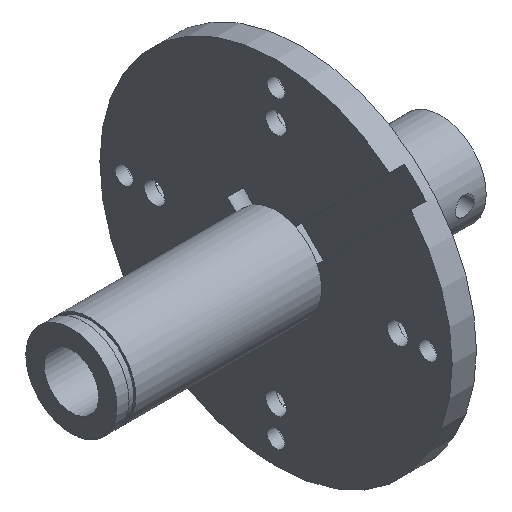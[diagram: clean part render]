
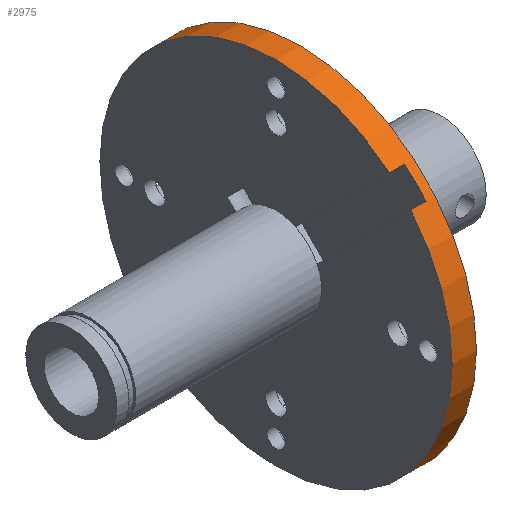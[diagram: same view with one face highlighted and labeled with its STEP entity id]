
A CAD part, isometric view. The second image highlights one B-rep face of the part: STEP entity #2975.
In plain terms, the highlighted cylindrical face has radius 29 mm (diameter 58 mm), a full revolution.
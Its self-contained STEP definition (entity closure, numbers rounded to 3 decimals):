
#1933 = PLANE('',#1934);
#1934 = AXIS2_PLACEMENT_3D('',#1935,#1936,#1937);
#1935 = CARTESIAN_POINT('',(14.4,0.,0.)
  );
#1936 = DIRECTION('',(1.,0.,0.));
#1937 = DIRECTION('',(-0.,0.,1.));
#2160 = PLANE('',#2161);
#2161 = AXIS2_PLACEMENT_3D('',#2162,#2163,#2164);
#2162 = CARTESIAN_POINT('',(14.39,-1.768,5.303));
#2163 = DIRECTION('',(0.,0.707,0.707));
#2164 = DIRECTION('',(0.,-0.707,0.707));
#2219 = PLANE('',#2220);
#2220 = AXIS2_PLACEMENT_3D('',#2221,#2222,#2223);
#2221 = CARTESIAN_POINT('',(14.39,-5.303,1.768));
#2222 = DIRECTION('',(0.,0.707,0.707));
#2223 = DIRECTION('',(0.,-0.707,0.707));
#2372 = VERTEX_POINT('',#2373);
#2373 = CARTESIAN_POINT('',(14.4,-22.198,18.662));
#2392 = EDGE_CURVE('',#2372,#2393,#2395,.T.);
#2393 = VERTEX_POINT('',#2394);
#2394 = CARTESIAN_POINT('',(14.4,29.,0.));
#2395 = SURFACE_CURVE('',#2396,(#2401,#2408),.PCURVE_S1.);
#2396 = CIRCLE('',#2397,29.);
#2397 = AXIS2_PLACEMENT_3D('',#2398,#2399,#2400);
#2398 = CARTESIAN_POINT('',(14.4,0.,0.));
#2399 = DIRECTION('',(1.,0.,0.));
#2400 = DIRECTION('',(0.,1.,0.));
#2401 = PCURVE('',#1933,#2402);
#2402 = DEFINITIONAL_REPRESENTATION('',(#2403),#2407);
#2403 = CIRCLE('',#2404,29.);
#2404 = AXIS2_PLACEMENT_2D('',#2405,#2406);
#2405 = CARTESIAN_POINT('',(0.,0.));
#2406 = DIRECTION('',(0.,-1.));
#2407 = ( GEOMETRIC_REPRESENTATION_CONTEXT(2) 
PARAMETRIC_REPRESENTATION_CONTEXT() REPRESENTATION_CONTEXT('2D SPACE',''
  ) );
#2408 = PCURVE('',#2409,#2414);
#2409 = CYLINDRICAL_SURFACE('',#2410,29.);
#2410 = AXIS2_PLACEMENT_3D('',#2411,#2412,#2413);
#2411 = CARTESIAN_POINT('',(14.4,0.,0.));
#2412 = DIRECTION('',(-1.,-0.,-0.));
#2413 = DIRECTION('',(0.,1.,0.));
#2414 = DEFINITIONAL_REPRESENTATION('',(#2415),#2419);
#2415 = LINE('',#2416,#2417);
#2416 = CARTESIAN_POINT('',(-0.,0.));
#2417 = VECTOR('',#2418,1.);
#2418 = DIRECTION('',(-1.,0.));
#2419 = ( GEOMETRIC_REPRESENTATION_CONTEXT(2) 
PARAMETRIC_REPRESENTATION_CONTEXT() REPRESENTATION_CONTEXT('2D SPACE',''
  ) );
#2421 = EDGE_CURVE('',#2393,#2422,#2424,.T.);
#2422 = VERTEX_POINT('',#2423);
#2423 = CARTESIAN_POINT('',(14.4,-18.662,22.198));
#2424 = SURFACE_CURVE('',#2425,(#2430,#2437),.PCURVE_S1.);
#2425 = CIRCLE('',#2426,29.);
#2426 = AXIS2_PLACEMENT_3D('',#2427,#2428,#2429);
#2427 = CARTESIAN_POINT('',(14.4,0.,0.));
#2428 = DIRECTION('',(1.,0.,0.));
#2429 = DIRECTION('',(0.,1.,0.));
#2430 = PCURVE('',#1933,#2431);
#2431 = DEFINITIONAL_REPRESENTATION('',(#2432),#2436);
#2432 = CIRCLE('',#2433,29.);
#2433 = AXIS2_PLACEMENT_2D('',#2434,#2435);
#2434 = CARTESIAN_POINT('',(0.,0.));
#2435 = DIRECTION('',(0.,-1.));
#2436 = ( GEOMETRIC_REPRESENTATION_CONTEXT(2) 
PARAMETRIC_REPRESENTATION_CONTEXT() REPRESENTATION_CONTEXT('2D SPACE',''
  ) );
#2437 = PCURVE('',#2409,#2438);
#2438 = DEFINITIONAL_REPRESENTATION('',(#2439),#2443);
#2439 = LINE('',#2440,#2441);
#2440 = CARTESIAN_POINT('',(-0.,0.));
#2441 = VECTOR('',#2442,1.);
#2442 = DIRECTION('',(-1.,0.));
#2443 = ( GEOMETRIC_REPRESENTATION_CONTEXT(2) 
PARAMETRIC_REPRESENTATION_CONTEXT() REPRESENTATION_CONTEXT('2D SPACE',''
  ) );
#2724 = VERTEX_POINT('',#2725);
#2725 = CARTESIAN_POINT('',(16.9,-22.198,18.662));
#2739 = PLANE('',#2740);
#2740 = AXIS2_PLACEMENT_3D('',#2741,#2742,#2743);
#2741 = CARTESIAN_POINT('',(16.9,-5.303,1.768));
#2742 = DIRECTION('',(1.,0.,0.));
#2743 = DIRECTION('',(0.,-0.707,0.707));
#2802 = EDGE_CURVE('',#2724,#2372,#2803,.T.);
#2803 = SURFACE_CURVE('',#2804,(#2808,#2814),.PCURVE_S1.);
#2804 = LINE('',#2805,#2806);
#2805 = CARTESIAN_POINT('',(14.4,-22.198,18.662));
#2806 = VECTOR('',#2807,1.);
#2807 = DIRECTION('',(-1.,-0.,-0.));
#2808 = PCURVE('',#2219,#2809);
#2809 = DEFINITIONAL_REPRESENTATION('',(#2810),#2813);
#2810 = B_SPLINE_CURVE_WITH_KNOTS('',1,(#2811,#2812),.UNSPECIFIED.,.F.,
  .F.,(2,2),(-2.751,0.),.PIECEWISE_BEZIER_KNOTS.);
#2811 = CARTESIAN_POINT('',(23.892,2.761));
#2812 = CARTESIAN_POINT('',(23.892,0.01));
#2813 = ( GEOMETRIC_REPRESENTATION_CONTEXT(2) 
PARAMETRIC_REPRESENTATION_CONTEXT() REPRESENTATION_CONTEXT('2D SPACE',''
  ) );
#2814 = PCURVE('',#2409,#2815);
#2815 = DEFINITIONAL_REPRESENTATION('',(#2816),#2819);
#2816 = B_SPLINE_CURVE_WITH_KNOTS('',1,(#2817,#2818),.UNSPECIFIED.,.F.,
  .F.,(2,2),(-2.751,0.),.PIECEWISE_BEZIER_KNOTS.);
#2817 = CARTESIAN_POINT('',(-2.443,-2.751));
#2818 = CARTESIAN_POINT('',(-2.443,0.));
#2819 = ( GEOMETRIC_REPRESENTATION_CONTEXT(2) 
PARAMETRIC_REPRESENTATION_CONTEXT() REPRESENTATION_CONTEXT('2D SPACE',''
  ) );
#2876 = VERTEX_POINT('',#2877);
#2877 = CARTESIAN_POINT('',(16.9,-18.662,22.198));
#2922 = EDGE_CURVE('',#2876,#2422,#2923,.T.);
#2923 = SURFACE_CURVE('',#2924,(#2928,#2934),.PCURVE_S1.);
#2924 = LINE('',#2925,#2926);
#2925 = CARTESIAN_POINT('',(14.4,-18.662,22.198));
#2926 = VECTOR('',#2927,1.);
#2927 = DIRECTION('',(-1.,-0.,-0.));
#2928 = PCURVE('',#2160,#2929);
#2929 = DEFINITIONAL_REPRESENTATION('',(#2930),#2933);
#2930 = B_SPLINE_CURVE_WITH_KNOTS('',1,(#2931,#2932),.UNSPECIFIED.,.F.,
  .F.,(2,2),(-2.751,0.),.PIECEWISE_BEZIER_KNOTS.);
#2931 = CARTESIAN_POINT('',(23.892,2.761));
#2932 = CARTESIAN_POINT('',(23.892,0.01));
#2933 = ( GEOMETRIC_REPRESENTATION_CONTEXT(2) 
PARAMETRIC_REPRESENTATION_CONTEXT() REPRESENTATION_CONTEXT('2D SPACE',''
  ) );
#2934 = PCURVE('',#2409,#2935);
#2935 = DEFINITIONAL_REPRESENTATION('',(#2936),#2939);
#2936 = B_SPLINE_CURVE_WITH_KNOTS('',1,(#2937,#2938),.UNSPECIFIED.,.F.,
  .F.,(2,2),(-2.751,0.),.PIECEWISE_BEZIER_KNOTS.);
#2937 = CARTESIAN_POINT('',(-2.27,-2.751));
#2938 = CARTESIAN_POINT('',(-2.27,0.));
#2939 = ( GEOMETRIC_REPRESENTATION_CONTEXT(2) 
PARAMETRIC_REPRESENTATION_CONTEXT() REPRESENTATION_CONTEXT('2D SPACE',''
  ) );
#2975 = ADVANCED_FACE('',(#2976),#2409,.T.);
#2976 = FACE_BOUND('',#2977,.F.);
#2977 = EDGE_LOOP('',(#2978,#2979,#3002,#3029,#3030,#3031,#3032,#3058));
#2978 = ORIENTED_EDGE('',*,*,#2421,.F.);
#2979 = ORIENTED_EDGE('',*,*,#2980,.T.);
#2980 = EDGE_CURVE('',#2393,#2981,#2983,.T.);
#2981 = VERTEX_POINT('',#2982);
#2982 = CARTESIAN_POINT('',(18.4,29.,0.));
#2983 = SEAM_CURVE('',#2984,(#2988,#2995),.PCURVE_S1.);
#2984 = LINE('',#2985,#2986);
#2985 = CARTESIAN_POINT('',(14.4,29.,0.));
#2986 = VECTOR('',#2987,1.);
#2987 = DIRECTION('',(1.,0.,0.));
#2988 = PCURVE('',#2409,#2989);
#2989 = DEFINITIONAL_REPRESENTATION('',(#2990),#2994);
#2990 = LINE('',#2991,#2992);
#2991 = CARTESIAN_POINT('',(-6.283,0.));
#2992 = VECTOR('',#2993,1.);
#2993 = DIRECTION('',(-0.,-1.));
#2994 = ( GEOMETRIC_REPRESENTATION_CONTEXT(2) 
PARAMETRIC_REPRESENTATION_CONTEXT() REPRESENTATION_CONTEXT('2D SPACE',''
  ) );
#2995 = PCURVE('',#2409,#2996);
#2996 = DEFINITIONAL_REPRESENTATION('',(#2997),#3001);
#2997 = LINE('',#2998,#2999);
#2998 = CARTESIAN_POINT('',(-0.,0.));
#2999 = VECTOR('',#3000,1.);
#3000 = DIRECTION('',(-0.,-1.));
#3001 = ( GEOMETRIC_REPRESENTATION_CONTEXT(2) 
PARAMETRIC_REPRESENTATION_CONTEXT() REPRESENTATION_CONTEXT('2D SPACE',''
  ) );
#3002 = ORIENTED_EDGE('',*,*,#3003,.T.);
#3003 = EDGE_CURVE('',#2981,#2981,#3004,.T.);
#3004 = SURFACE_CURVE('',#3005,(#3010,#3017),.PCURVE_S1.);
#3005 = CIRCLE('',#3006,29.);
#3006 = AXIS2_PLACEMENT_3D('',#3007,#3008,#3009);
#3007 = CARTESIAN_POINT('',(18.4,0.,0.));
#3008 = DIRECTION('',(1.,0.,0.));
#3009 = DIRECTION('',(0.,1.,0.));
#3010 = PCURVE('',#2409,#3011);
#3011 = DEFINITIONAL_REPRESENTATION('',(#3012),#3016);
#3012 = LINE('',#3013,#3014);
#3013 = CARTESIAN_POINT('',(-0.,-4.));
#3014 = VECTOR('',#3015,1.);
#3015 = DIRECTION('',(-1.,0.));
#3016 = ( GEOMETRIC_REPRESENTATION_CONTEXT(2) 
PARAMETRIC_REPRESENTATION_CONTEXT() REPRESENTATION_CONTEXT('2D SPACE',''
  ) );
#3017 = PCURVE('',#3018,#3023);
#3018 = PLANE('',#3019);
#3019 = AXIS2_PLACEMENT_3D('',#3020,#3021,#3022);
#3020 = CARTESIAN_POINT('',(18.4,0.,0.)
  );
#3021 = DIRECTION('',(1.,0.,0.));
#3022 = DIRECTION('',(-0.,0.,1.));
#3023 = DEFINITIONAL_REPRESENTATION('',(#3024),#3028);
#3024 = CIRCLE('',#3025,29.);
#3025 = AXIS2_PLACEMENT_2D('',#3026,#3027);
#3026 = CARTESIAN_POINT('',(0.,0.));
#3027 = DIRECTION('',(0.,-1.));
#3028 = ( GEOMETRIC_REPRESENTATION_CONTEXT(2) 
PARAMETRIC_REPRESENTATION_CONTEXT() REPRESENTATION_CONTEXT('2D SPACE',''
  ) );
#3029 = ORIENTED_EDGE('',*,*,#2980,.F.);
#3030 = ORIENTED_EDGE('',*,*,#2392,.F.);
#3031 = ORIENTED_EDGE('',*,*,#2802,.F.);
#3032 = ORIENTED_EDGE('',*,*,#3033,.T.);
#3033 = EDGE_CURVE('',#2724,#2876,#3034,.T.);
#3034 = SURFACE_CURVE('',#3035,(#3040,#3047),.PCURVE_S1.);
#3035 = CIRCLE('',#3036,29.);
#3036 = AXIS2_PLACEMENT_3D('',#3037,#3038,#3039);
#3037 = CARTESIAN_POINT('',(16.9,0.,0.));
#3038 = DIRECTION('',(-1.,0.,0.));
#3039 = DIRECTION('',(0.,1.,0.));
#3040 = PCURVE('',#2409,#3041);
#3041 = DEFINITIONAL_REPRESENTATION('',(#3042),#3046);
#3042 = LINE('',#3043,#3044);
#3043 = CARTESIAN_POINT('',(-6.283,-2.5));
#3044 = VECTOR('',#3045,1.);
#3045 = DIRECTION('',(1.,-0.));
#3046 = ( GEOMETRIC_REPRESENTATION_CONTEXT(2) 
PARAMETRIC_REPRESENTATION_CONTEXT() REPRESENTATION_CONTEXT('2D SPACE',''
  ) );
#3047 = PCURVE('',#2739,#3048);
#3048 = DEFINITIONAL_REPRESENTATION('',(#3049),#3057);
#3049 = ( BOUNDED_CURVE() B_SPLINE_CURVE(2,(#3050,#3051,#3052,#3053,
#3054,#3055,#3056),.UNSPECIFIED.,.T.,.F.) B_SPLINE_CURVE_WITH_KNOTS((1,2
    ,2,2,2,1),(-2.094,0.,2.094,4.189,
6.283,8.378),.UNSPECIFIED.) CURVE() 
GEOMETRIC_REPRESENTATION_ITEM() RATIONAL_B_SPLINE_CURVE((1.,0.5,1.,0.5,
1.,0.5,1.)) REPRESENTATION_ITEM('') );
#3050 = CARTESIAN_POINT('',(-25.506,-23.006));
#3051 = CARTESIAN_POINT('',(-61.024,12.512));
#3052 = CARTESIAN_POINT('',(-12.506,25.512));
#3053 = CARTESIAN_POINT('',(36.012,38.512));
#3054 = CARTESIAN_POINT('',(23.012,-10.006));
#3055 = CARTESIAN_POINT('',(10.012,-58.524));
#3056 = CARTESIAN_POINT('',(-25.506,-23.006));
#3057 = ( GEOMETRIC_REPRESENTATION_CONTEXT(2) 
PARAMETRIC_REPRESENTATION_CONTEXT() REPRESENTATION_CONTEXT('2D SPACE',''
  ) );
#3058 = ORIENTED_EDGE('',*,*,#2922,.T.);
